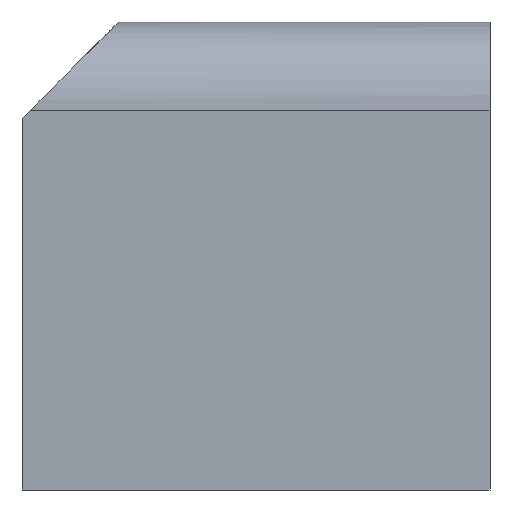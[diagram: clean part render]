
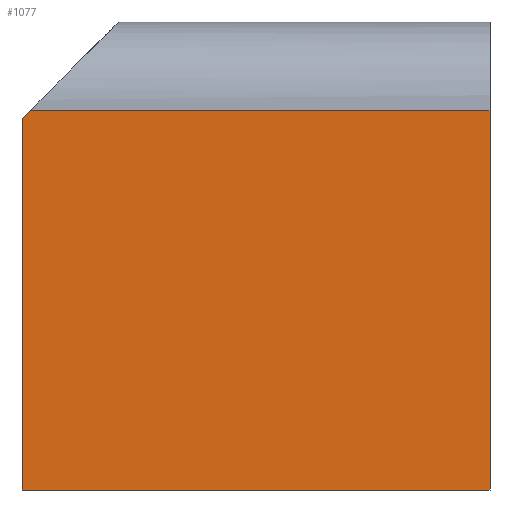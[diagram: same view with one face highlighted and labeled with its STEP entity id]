
A CAD part, front view. The second image highlights one B-rep face of the part: STEP entity #1077.
In plain terms, the highlighted planar face has unit normal (0, -1, 0).
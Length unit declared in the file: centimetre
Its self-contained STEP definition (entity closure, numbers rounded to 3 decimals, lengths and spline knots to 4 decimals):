
#7 = CARTESIAN_POINT ( 'NONE',  ( 0., 0., 1000. ) ) ;
#27 = CARTESIAN_POINT ( 'NONE',  ( 0., 0., 793.1873 ) ) ;
#36 = LINE ( 'NONE', #411, #354 ) ;
#37 = CARTESIAN_POINT ( 'NONE',  ( 0., 0., 1000. ) ) ;
#123 = CARTESIAN_POINT ( 'NONE',  ( 0., 0., 0. ) ) ;
#128 = CARTESIAN_POINT ( 'NONE',  ( 1000., 0., 810.5169 ) ) ;
#150 = EDGE_CURVE ( 'NONE', #972, #570, #712, .T. ) ;
#241 = DIRECTION ( 'NONE',  ( -0.707, 0., -0.707 ) ) ;
#248 = ORIENTED_EDGE ( 'NONE', *, *, #813, .T. ) ;
#291 = VERTEX_POINT ( 'NONE', #400 ) ;
#354 = VECTOR ( 'NONE', #241, 100. ) ;
#368 = LINE ( 'NONE', #7, #779 ) ;
#378 = DIRECTION ( 'NONE',  ( 0., 0., -1. ) ) ;
#391 = EDGE_LOOP ( 'NONE', ( #504, #940, #910, #248, #1005 ) ) ;
#400 = CARTESIAN_POINT ( 'NONE',  ( 0., 0., 0. ) ) ;
#404 = EDGE_CURVE ( 'NONE', #918, #593, #36, .T. ) ;
#411 = CARTESIAN_POINT ( 'NONE',  ( 206.8127, 0., 1000. ) ) ;
#442 = VECTOR ( 'NONE', #809, 100. ) ;
#469 = VECTOR ( 'NONE', #1098, 100. ) ;
#488 = DIRECTION ( 'NONE',  ( 0., 1., 0. ) ) ;
#497 = FACE_OUTER_BOUND ( 'NONE', #391, .T. ) ;
#504 = ORIENTED_EDGE ( 'NONE', *, *, #784, .T. ) ;
#570 = VERTEX_POINT ( 'NONE', #767 ) ;
#593 = VERTEX_POINT ( 'NONE', #27 ) ;
#653 = CARTESIAN_POINT ( 'NONE',  ( 17.3296, 0., 810.5169 ) ) ;
#673 = EDGE_CURVE ( 'NONE', #593, #291, #368, .T. ) ;
#705 = AXIS2_PLACEMENT_3D ( 'NONE', #37, #488, #924 ) ;
#712 = LINE ( 'NONE', #978, #800 ) ;
#750 = LINE ( 'NONE', #995, #469 ) ;
#767 = CARTESIAN_POINT ( 'NONE',  ( 1000., 0., 0. ) ) ;
#779 = VECTOR ( 'NONE', #378, 100. ) ;
#784 = EDGE_CURVE ( 'NONE', #972, #918, #750, .T. ) ;
#800 = VECTOR ( 'NONE', #983, 100. ) ;
#809 = DIRECTION ( 'NONE',  ( 1., 0., 0. ) ) ;
#813 = EDGE_CURVE ( 'NONE', #291, #570, #895, .T. ) ;
#838 = PLANE ( 'NONE',  #705 ) ;
#895 = LINE ( 'NONE', #123, #442 ) ;
#910 = ORIENTED_EDGE ( 'NONE', *, *, #673, .T. ) ;
#918 = VERTEX_POINT ( 'NONE', #653 ) ;
#924 = DIRECTION ( 'NONE',  ( 0., 0., 1. ) ) ;
#940 = ORIENTED_EDGE ( 'NONE', *, *, #404, .T. ) ;
#972 = VERTEX_POINT ( 'NONE', #128 ) ;
#978 = CARTESIAN_POINT ( 'NONE',  ( 1000., 0., 1000. ) ) ;
#983 = DIRECTION ( 'NONE',  ( 0., 0., -1. ) ) ;
#995 = CARTESIAN_POINT ( 'NONE',  ( 0., 0., 810.5169 ) ) ;
#1005 = ORIENTED_EDGE ( 'NONE', *, *, #150, .F. ) ;
#1077 = ADVANCED_FACE ( 'NONE', ( #497 ), #838, .F. ) ;
#1098 = DIRECTION ( 'NONE',  ( -1., 0., 0. ) ) ;
